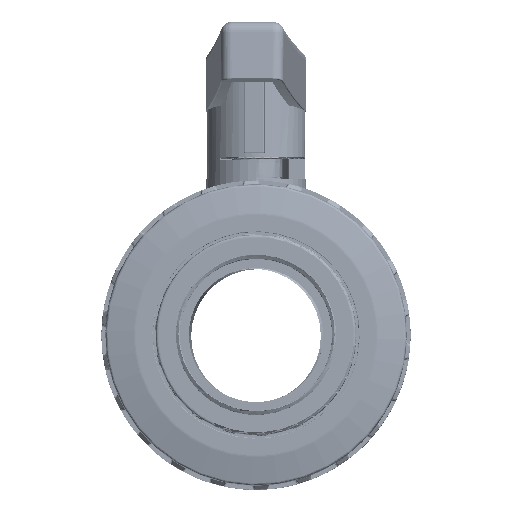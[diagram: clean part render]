
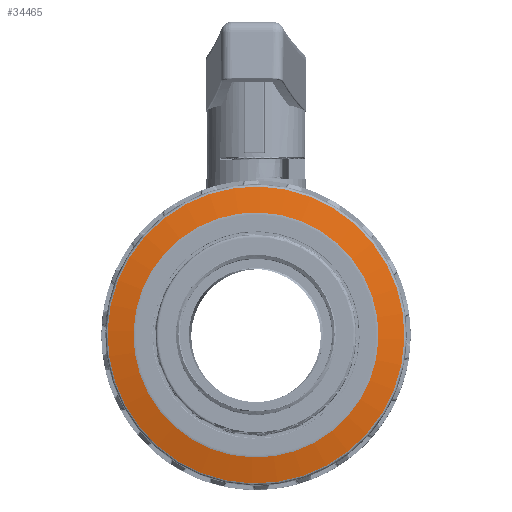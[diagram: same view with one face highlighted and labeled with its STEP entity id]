
A CAD part, top view. The second image highlights one B-rep face of the part: STEP entity #34465.
In plain terms, the highlighted conical face has half-angle 78 degrees and reference radius 50.575 mm.
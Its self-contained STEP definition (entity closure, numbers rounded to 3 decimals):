
#92=CONICAL_SURFACE('',#37214,50.575,1.361);
#577=FACE_BOUND('',#5569,.T.);
#3398=FACE_OUTER_BOUND('',#5568,.T.);
#5568=EDGE_LOOP('',(#28177));
#5569=EDGE_LOOP('',(#28178));
#12974=CIRCLE('',#37213,45.561);
#12975=CIRCLE('',#37215,55.208);
#15770=VERTEX_POINT('',#77257);
#15771=VERTEX_POINT('',#77260);
#20115=EDGE_CURVE('',#15770,#15770,#12974,.T.);
#20116=EDGE_CURVE('',#15771,#15771,#12975,.T.);
#28177=ORIENTED_EDGE('',*,*,#20116,.F.);
#28178=ORIENTED_EDGE('',*,*,#20115,.F.);
#34465=ADVANCED_FACE('',(#3398,#577),#92,.T.);
#37213=AXIS2_PLACEMENT_3D('',#77258,#43556,#43557);
#37214=AXIS2_PLACEMENT_3D('',#77259,#43558,#43559);
#37215=AXIS2_PLACEMENT_3D('',#77261,#43560,#43561);
#43556=DIRECTION('center_axis',(-1.,0.,0.));
#43557=DIRECTION('ref_axis',(0.,-1.,0.));
#43558=DIRECTION('center_axis',(1.,0.,0.));
#43559=DIRECTION('ref_axis',(0.,1.,0.));
#43560=DIRECTION('center_axis',(1.,0.,0.));
#43561=DIRECTION('ref_axis',(0.,-1.,0.));
#77257=CARTESIAN_POINT('',(0.087,45.561,0.));
#77258=CARTESIAN_POINT('Origin',(0.087,0.,0.));
#77259=CARTESIAN_POINT('Origin',(1.153,0.,0.));
#77260=CARTESIAN_POINT('',(2.138,55.208,0.));
#77261=CARTESIAN_POINT('Origin',(2.138,0.,0.));
